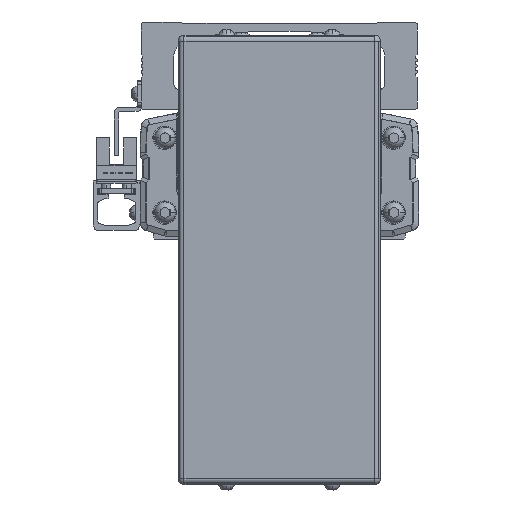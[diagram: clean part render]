
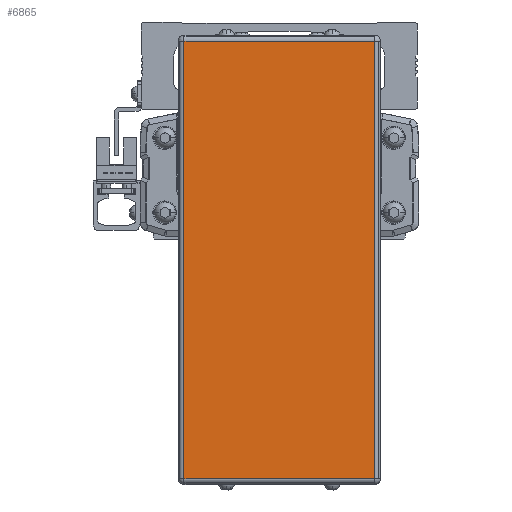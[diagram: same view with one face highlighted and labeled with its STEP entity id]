
A CAD part, front view. The second image highlights one B-rep face of the part: STEP entity #6865.
In plain terms, the highlighted planar face has unit normal (0, -1, 0).
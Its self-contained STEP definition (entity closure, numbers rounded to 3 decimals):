
#6865=ADVANCED_FACE('',(#13840),#13841,.T.);
#13840=FACE_OUTER_BOUND('',#22576,.T.);
#13841=PLANE('',#22577);
#22576=EDGE_LOOP('',(#42474,#42475,#42476,#42477));
#22577=AXIS2_PLACEMENT_3D('',#42478,#42479,#42480);
#42474=ORIENTED_EDGE('',*,*,#51617,.F.);
#42475=ORIENTED_EDGE('',*,*,#45855,.F.);
#42476=ORIENTED_EDGE('',*,*,#46468,.F.);
#42477=ORIENTED_EDGE('',*,*,#47619,.F.);
#42478=CARTESIAN_POINT('',(0.,85.222,-50.1));
#42479=DIRECTION('',(0.0,-1.0,0.));
#42480=DIRECTION('',(1.0,0.0,0.0));
#45855=EDGE_CURVE('',#55628,#55630,#55631,.T.);
#46468=EDGE_CURVE('',#56619,#55628,#56621,.T.);
#47619=EDGE_CURVE('',#58472,#56619,#58474,.T.);
#51617=EDGE_CURVE('',#55630,#58472,#63594,.T.);
#55628=VERTEX_POINT('',#69198);
#55630=VERTEX_POINT('',#69200);
#55631=LINE('',#69201,#69202);
#56619=VERTEX_POINT('',#70696);
#56621=LINE('',#70698,#70699);
#58472=VERTEX_POINT('',#73474);
#58474=LINE('',#73476,#73477);
#63594=LINE('',#81204,#81205);
#69198=CARTESIAN_POINT('',(-32.5,85.222,24.5));
#69200=CARTESIAN_POINT('',(32.5,85.222,24.5));
#69201=CARTESIAN_POINT('',(0.,85.222,24.5));
#69202=VECTOR('',#84289,10.0);
#70696=CARTESIAN_POINT('',(-32.5,85.222,-124.7));
#70698=CARTESIAN_POINT('',(-32.5,85.222,-50.1));
#70699=VECTOR('',#85016,10.0);
#73474=CARTESIAN_POINT('',(32.5,85.222,-124.7));
#73476=CARTESIAN_POINT('',(0.,85.222,-124.7));
#73477=VECTOR('',#86336,10.0);
#81204=CARTESIAN_POINT('',(32.5,85.222,-50.1));
#81205=VECTOR('',#90413,10.0);
#84289=DIRECTION('',(1.0,0.0,0.0));
#85016=DIRECTION('',(0.0,0.,1.0));
#86336=DIRECTION('',(-1.0,0.0,0.0));
#90413=DIRECTION('',(0.0,0.,-1.0));
